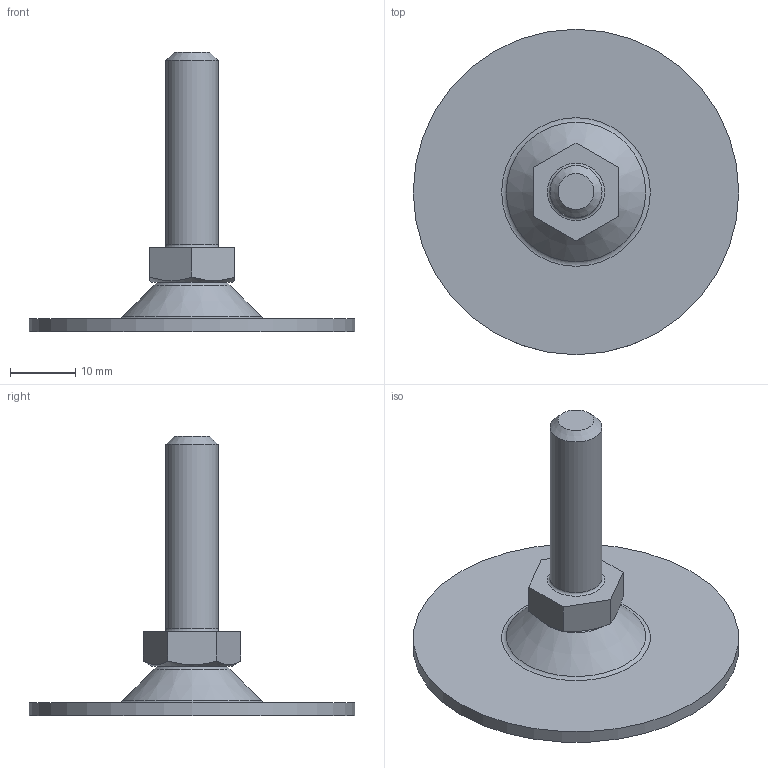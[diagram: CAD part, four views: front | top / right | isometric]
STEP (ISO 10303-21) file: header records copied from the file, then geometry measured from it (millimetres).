
FILE_DESCRIPTION(('STEP AP203'), '1');
FILE_NAME('A00050.1050816', '', ('UNSPECIFIED'), ('UNSPECIFIED'), 'C3D Converter', 'C3D Toolkit', '');
FILE_SCHEMA(('CONFIG_CONTROL_DESIGN'));
Length unit declared in the file: millimetre
Products named in the file (4): A00050.1050830; A00050.1050
Assembly tree (3 placements, depth 2):
  A00050.1050830
    A00050.1050
    (unnamed)
    (unnamed)
Bounding box: 50 x 50 x 42.92 mm (x, y, z)
Volume: 6429.8 mm3; surface area: 6135.4 mm2
Topology: 3 solids, 3 shells, 58 faces, 130 edges, 82 vertices
Faces by surface type: plane 28, torus 8, bspline 8, cone 7, cylinder 6, sphere 1
Full cylindrical faces by diameter (mm): 3.3 x1, 4 x1, 4.5 x1, 8 x2, 50 x1
Entity records: 2171 total; most frequent: CARTESIAN_POINT 784, DIRECTION 242, ORIENTED_EDGE 214, EDGE_CURVE 107, AXIS2_PLACEMENT_3D 95, EDGE_LOOP 86, VERTEX_POINT 81, ADVANCED_FACE 58
